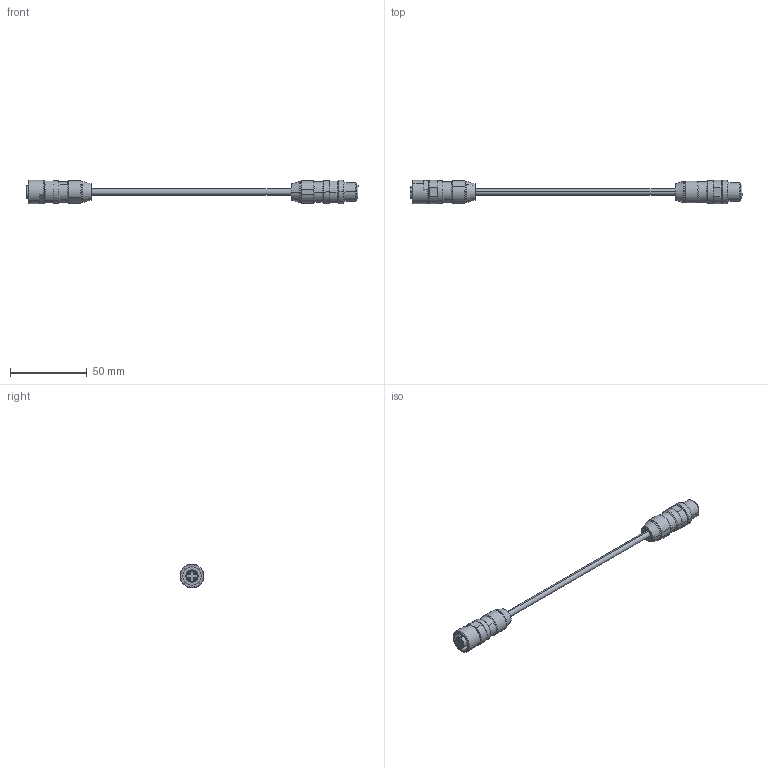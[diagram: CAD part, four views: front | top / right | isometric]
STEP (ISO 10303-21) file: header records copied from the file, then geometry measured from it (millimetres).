
FILE_DESCRIPTION (( 'STEP AP203' ), '1' );
FILE_NAME ('M12-#M-M12-1W(IMCB-M12-#M-M12).STEP', '2024-04-25T07:57:53', ( '' ), ( '' ), 'SwSTEP 2.0', 'SolidWorks 2023', '' );
FILE_SCHEMA (( 'CONFIG_CONTROL_DESIGN' ));
Length unit declared in the file: millimetre
Products named in the file (1): M12-#M-M12-1W(IMCB-M12-#M-M12)
Bounding box: 216.7 x 15.3 x 15.3 mm (x, y, z)
Volume: 13378.6 mm3; surface area: 8014.1 mm2
Topology: 1 solids, 1 shells, 307 faces, 712 edges, 451 vertices
Faces by surface type: plane 137, cylinder 96, cone 47, torus 18, bspline 9
Entity records: 9656 total; most frequent: CARTESIAN_POINT 2522, DIRECTION 1533, ORIENTED_EDGE 1424, EDGE_CURVE 712, AXIS2_PLACEMENT_3D 604, VERTEX_POINT 451, EDGE_LOOP 351, LINE 325
